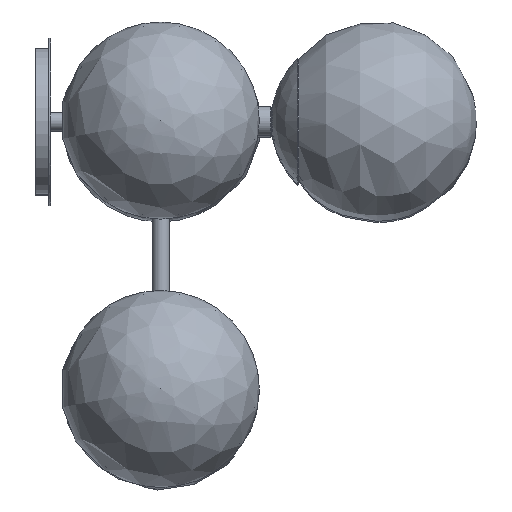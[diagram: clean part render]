
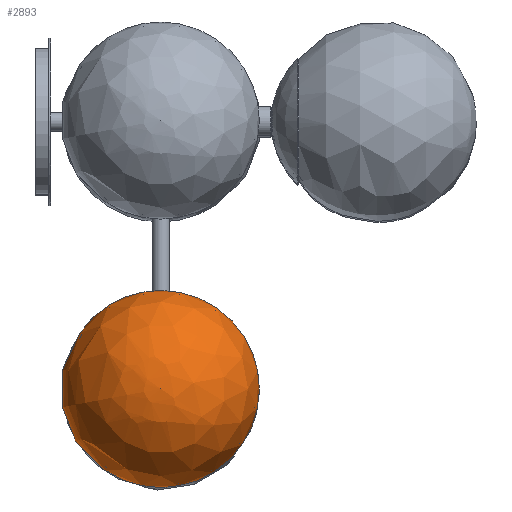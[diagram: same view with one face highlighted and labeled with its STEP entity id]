
A CAD part, top view. The second image highlights one B-rep face of the part: STEP entity #2893.
In plain terms, the highlighted free-form (B-spline) face has degree [2, 2] with [5, 9] control points.
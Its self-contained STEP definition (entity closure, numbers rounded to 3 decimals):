
#225=(
BOUNDED_SURFACE()
B_SPLINE_SURFACE(2,2,((#4843,#4844,#4845,#4846,#4847,#4848,#4849,#4850,
#4851),(#4852,#4853,#4854,#4855,#4856,#4857,#4858,#4859,#4860),(#4861,#4862,
#4863,#4864,#4865,#4866,#4867,#4868,#4869),(#4870,#4871,#4872,#4873,#4874,
#4875,#4876,#4877,#4878),(#4879,#4880,#4881,#4882,#4883,#4884,#4885,#4886,
#4887)),.UNSPECIFIED.,.F.,.T.,.F.)
B_SPLINE_SURFACE_WITH_KNOTS((3,2,3),(3,2,2,2,3),(-1.227,0.173,
1.572),(-3.142,-1.571,0.,1.571,
3.142),.UNSPECIFIED.)
GEOMETRIC_REPRESENTATION_ITEM()
RATIONAL_B_SPLINE_SURFACE(((1.,0.707,1.,0.707,1.,
0.707,1.,0.707,1.),(0.765,0.541,
0.765,0.541,0.765,0.541,
0.765,0.541,0.765),(1.,0.707,
1.,0.707,1.,0.707,1.,0.707,1.),(0.765,
0.541,0.765,0.541,0.765,0.541,
0.765,0.541,0.765),(1.,0.707,
1.,0.707,1.,0.707,1.,0.707,1.)))
REPRESENTATION_ITEM('')
SURFACE()
);
#254=FACE_OUTER_BOUND('',#469,.T.);
#469=EDGE_LOOP('',(#2007,#2008,#2009));
#1002=CIRCLE('',#3148,25.378);
#1004=CIRCLE('',#3150,75.);
#1284=VERTEX_POINT('',#4840);
#1285=VERTEX_POINT('',#4888);
#1570=EDGE_CURVE('',#1284,#1284,#1002,.T.);
#1572=EDGE_CURVE('',#1285,#1284,#1004,.T.);
#2007=ORIENTED_EDGE('',*,*,#1572,.T.);
#2008=ORIENTED_EDGE('',*,*,#1570,.T.);
#2009=ORIENTED_EDGE('',*,*,#1572,.F.);
#2893=ADVANCED_FACE('',(#254),#225,.F.);
#3148=AXIS2_PLACEMENT_3D('',#4841,#3658,#3659);
#3150=AXIS2_PLACEMENT_3D('',#4889,#3662,#3663);
#3658=DIRECTION('center_axis',(0.,0.,
1.));
#3659=DIRECTION('ref_axis',(-0.182,0.983,0.));
#3662=DIRECTION('center_axis',(0.182,-0.983,0.));
#3663=DIRECTION('ref_axis',(-0.983,-0.182,0.));
#4840=CARTESIAN_POINT('',(-24.956,-206.065,1098.668));
#4841=CARTESIAN_POINT('Origin',(0.,-201.454,1098.668));
#4843=CARTESIAN_POINT('Ctrl Pts',(-24.956,-206.065,1098.668));
#4844=CARTESIAN_POINT('Ctrl Pts',(-20.344,-231.021,1098.668));
#4845=CARTESIAN_POINT('Ctrl Pts',(4.611,-226.41,1098.668));
#4846=CARTESIAN_POINT('Ctrl Pts',(29.567,-221.798,1098.668));
#4847=CARTESIAN_POINT('Ctrl Pts',(24.956,-196.843,1098.668));
#4848=CARTESIAN_POINT('Ctrl Pts',(20.344,-171.887,1098.668));
#4849=CARTESIAN_POINT('Ctrl Pts',(-4.611,-176.498,1098.668));
#4850=CARTESIAN_POINT('Ctrl Pts',(-29.567,-181.11,1098.668));
#4851=CARTESIAN_POINT('Ctrl Pts',(-24.956,-206.065,1098.668));
#4852=CARTESIAN_POINT('Ctrl Pts',(-83.428,-216.87,1119.944));
#4853=CARTESIAN_POINT('Ctrl Pts',(-68.012,-300.298,1119.944));
#4854=CARTESIAN_POINT('Ctrl Pts',(15.416,-284.882,1119.944));
#4855=CARTESIAN_POINT('Ctrl Pts',(98.844,-269.466,1119.944));
#4856=CARTESIAN_POINT('Ctrl Pts',(83.428,-186.038,1119.944));
#4857=CARTESIAN_POINT('Ctrl Pts',(68.012,-102.61,1119.944));
#4858=CARTESIAN_POINT('Ctrl Pts',(-15.416,-118.026,1119.944));
#4859=CARTESIAN_POINT('Ctrl Pts',(-98.844,-133.442,1119.944));
#4860=CARTESIAN_POINT('Ctrl Pts',(-83.428,-216.87,1119.944));
#4861=CARTESIAN_POINT('Ctrl Pts',(-72.765,-214.899,1182.161));
#4862=CARTESIAN_POINT('Ctrl Pts',(-59.32,-287.665,1182.161));
#4863=CARTESIAN_POINT('Ctrl Pts',(13.445,-274.219,1182.161));
#4864=CARTESIAN_POINT('Ctrl Pts',(86.211,-260.774,1182.161));
#4865=CARTESIAN_POINT('Ctrl Pts',(72.765,-188.009,1182.161));
#4866=CARTESIAN_POINT('Ctrl Pts',(59.32,-115.243,1182.161));
#4867=CARTESIAN_POINT('Ctrl Pts',(-13.445,-128.689,1182.161));
#4868=CARTESIAN_POINT('Ctrl Pts',(-86.211,-142.134,1182.161));
#4869=CARTESIAN_POINT('Ctrl Pts',(-72.765,-214.899,1182.161));
#4870=CARTESIAN_POINT('Ctrl Pts',(-62.103,-212.929,1244.377));
#4871=CARTESIAN_POINT('Ctrl Pts',(-50.627,-275.032,1244.377));
#4872=CARTESIAN_POINT('Ctrl Pts',(11.475,-263.557,1244.377));
#4873=CARTESIAN_POINT('Ctrl Pts',(73.578,-252.081,1244.377));
#4874=CARTESIAN_POINT('Ctrl Pts',(62.103,-189.979,1244.377));
#4875=CARTESIAN_POINT('Ctrl Pts',(50.627,-127.876,1244.377));
#4876=CARTESIAN_POINT('Ctrl Pts',(-11.475,-139.351,1244.377));
#4877=CARTESIAN_POINT('Ctrl Pts',(-73.578,-150.827,1244.377));
#4878=CARTESIAN_POINT('Ctrl Pts',(-62.103,-212.929,1244.377));
#4879=CARTESIAN_POINT('Ctrl Pts',(0.,-201.454,1244.283));
#4880=CARTESIAN_POINT('Ctrl Pts',(0.,-201.454,1244.283));
#4881=CARTESIAN_POINT('Ctrl Pts',(0.,-201.454,1244.283));
#4882=CARTESIAN_POINT('Ctrl Pts',(0.,-201.454,1244.283));
#4883=CARTESIAN_POINT('Ctrl Pts',(0.,-201.454,1244.283));
#4884=CARTESIAN_POINT('Ctrl Pts',(0.,-201.454,1244.283));
#4885=CARTESIAN_POINT('Ctrl Pts',(0.,-201.454,1244.283));
#4886=CARTESIAN_POINT('Ctrl Pts',(0.,-201.454,1244.283));
#4887=CARTESIAN_POINT('Ctrl Pts',(0.,-201.454,1244.283));
#4888=CARTESIAN_POINT('',(0.,-201.454,1244.283));
#4889=CARTESIAN_POINT('Origin',(-0.109,-201.474,1169.284));
